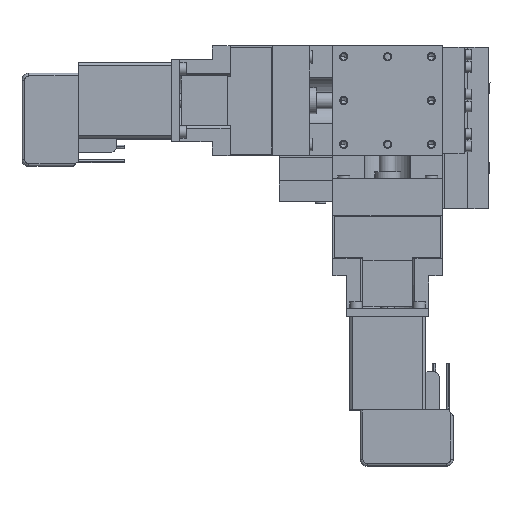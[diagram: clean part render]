
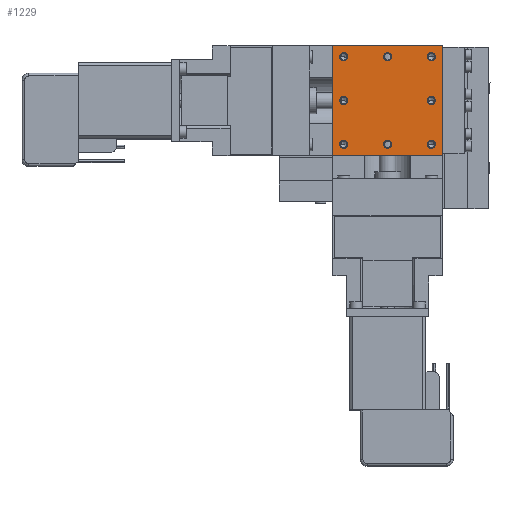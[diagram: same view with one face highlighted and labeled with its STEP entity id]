
A CAD part, top view. The second image highlights one B-rep face of the part: STEP entity #1229.
In plain terms, the highlighted planar face has unit normal (0, 0, 1).
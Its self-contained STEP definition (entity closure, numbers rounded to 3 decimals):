
#1229=ADVANCED_FACE('',(#3075,#3076,#3077,#3078,#3079,#3080,#3081,#3082,#3083),#3084,.F.);
#3075=FACE_BOUND('',#5513,.T.);
#3076=FACE_BOUND('',#5514,.T.);
#3077=FACE_BOUND('',#5515,.T.);
#3078=FACE_BOUND('',#5516,.T.);
#3079=FACE_BOUND('',#5517,.T.);
#3080=FACE_BOUND('',#5518,.T.);
#3081=FACE_BOUND('',#5519,.T.);
#3082=FACE_BOUND('',#5520,.T.);
#3083=FACE_OUTER_BOUND('',#5521,.T.);
#3084=PLANE('',#5522);
#5513=EDGE_LOOP('',(#11595,#11596));
#5514=EDGE_LOOP('',(#11597,#11598));
#5515=EDGE_LOOP('',(#11599,#11600));
#5516=EDGE_LOOP('',(#11601,#11602));
#5517=EDGE_LOOP('',(#11603,#11604));
#5518=EDGE_LOOP('',(#11605,#11606));
#5519=EDGE_LOOP('',(#11607,#11608));
#5520=EDGE_LOOP('',(#11609,#11610));
#5521=EDGE_LOOP('',(#11611,#11612,#11613,#11614));
#5522=AXIS2_PLACEMENT_3D('',#11615,#11616,#11617);
#11595=ORIENTED_EDGE('',*,*,#17413,.T.);
#11596=ORIENTED_EDGE('',*,*,#17236,.T.);
#11597=ORIENTED_EDGE('',*,*,#17414,.T.);
#11598=ORIENTED_EDGE('',*,*,#17298,.T.);
#11599=ORIENTED_EDGE('',*,*,#17415,.T.);
#11600=ORIENTED_EDGE('',*,*,#17247,.T.);
#11601=ORIENTED_EDGE('',*,*,#17349,.T.);
#11602=ORIENTED_EDGE('',*,*,#17348,.T.);
#11603=ORIENTED_EDGE('',*,*,#17416,.T.);
#11604=ORIENTED_EDGE('',*,*,#17257,.T.);
#11605=ORIENTED_EDGE('',*,*,#17411,.T.);
#11606=ORIENTED_EDGE('',*,*,#17320,.T.);
#11607=ORIENTED_EDGE('',*,*,#17370,.T.);
#11608=ORIENTED_EDGE('',*,*,#17329,.T.);
#11609=ORIENTED_EDGE('',*,*,#17417,.T.);
#11610=ORIENTED_EDGE('',*,*,#17261,.T.);
#11611=ORIENTED_EDGE('',*,*,#17386,.T.);
#11612=ORIENTED_EDGE('',*,*,#17418,.F.);
#11613=ORIENTED_EDGE('',*,*,#17419,.F.);
#11614=ORIENTED_EDGE('',*,*,#17420,.T.);
#11615=CARTESIAN_POINT('',(20.,-20.,40.));
#11616=DIRECTION('',(0.,0.,-1.0));
#11617=DIRECTION('',(1.0,0.,0.));
#17236=EDGE_CURVE('',#20998,#21002,#21004,.T.);
#17247=EDGE_CURVE('',#21021,#21023,#21025,.T.);
#17257=EDGE_CURVE('',#21039,#21043,#21045,.T.);
#17261=EDGE_CURVE('',#21047,#21051,#21053,.T.);
#17298=EDGE_CURVE('',#21116,#21120,#21122,.T.);
#17320=EDGE_CURVE('',#21153,#21155,#21157,.T.);
#17329=EDGE_CURVE('',#21167,#21169,#21171,.T.);
#17348=EDGE_CURVE('',#21202,#21204,#21206,.T.);
#17349=EDGE_CURVE('',#21204,#21202,#21207,.T.);
#17370=EDGE_CURVE('',#21169,#21167,#21240,.T.);
#17386=EDGE_CURVE('',#21268,#21266,#21269,.T.);
#17411=EDGE_CURVE('',#21155,#21153,#21310,.T.);
#17413=EDGE_CURVE('',#21002,#20998,#21312,.T.);
#17414=EDGE_CURVE('',#21120,#21116,#21313,.T.);
#17415=EDGE_CURVE('',#21023,#21021,#21314,.T.);
#17416=EDGE_CURVE('',#21043,#21039,#21315,.T.);
#17417=EDGE_CURVE('',#21051,#21047,#21316,.T.);
#17418=EDGE_CURVE('',#21317,#21266,#21318,.T.);
#17419=EDGE_CURVE('',#21319,#21317,#21320,.T.);
#17420=EDGE_CURVE('',#21319,#21268,#21321,.T.);
#20998=VERTEX_POINT('',#26967);
#21002=VERTEX_POINT('',#26972);
#21004=CIRCLE('',#26975,1.5);
#21021=VERTEX_POINT('',#26996);
#21023=VERTEX_POINT('',#26999);
#21025=CIRCLE('',#27002,1.5);
#21039=VERTEX_POINT('',#27018);
#21043=VERTEX_POINT('',#27023);
#21045=CIRCLE('',#27026,1.5);
#21047=VERTEX_POINT('',#27028);
#21051=VERTEX_POINT('',#27033);
#21053=CIRCLE('',#27036,1.5);
#21116=VERTEX_POINT('',#27117);
#21120=VERTEX_POINT('',#27122);
#21122=CIRCLE('',#27125,1.5);
#21153=VERTEX_POINT('',#27166);
#21155=VERTEX_POINT('',#27169);
#21157=CIRCLE('',#27172,1.5);
#21167=VERTEX_POINT('',#27186);
#21169=VERTEX_POINT('',#27189);
#21171=CIRCLE('',#27192,1.5);
#21202=VERTEX_POINT('',#27231);
#21204=VERTEX_POINT('',#27234);
#21206=CIRCLE('',#27237,1.5);
#21207=CIRCLE('',#27238,1.5);
#21240=CIRCLE('',#27283,1.5);
#21266=VERTEX_POINT('',#27319);
#21268=VERTEX_POINT('',#27322);
#21269=LINE('',#27323,#27324);
#21310=CIRCLE('',#27385,1.5);
#21312=CIRCLE('',#27387,1.5);
#21313=CIRCLE('',#27388,1.5);
#21314=CIRCLE('',#27389,1.5);
#21315=CIRCLE('',#27390,1.5);
#21316=CIRCLE('',#27391,1.5);
#21317=VERTEX_POINT('',#27392);
#21318=LINE('',#27393,#27394);
#21319=VERTEX_POINT('',#27395);
#21320=LINE('',#27396,#27397);
#21321=LINE('',#27398,#27399);
#26967=CARTESIAN_POINT('',(14.5,-16.,40.));
#26972=CARTESIAN_POINT('',(17.5,-16.,40.));
#26975=AXIS2_PLACEMENT_3D('',#32961,#32962,#32963);
#26996=CARTESIAN_POINT('',(14.5,16.,40.));
#26999=CARTESIAN_POINT('',(17.5,16.,40.));
#27002=AXIS2_PLACEMENT_3D('',#32982,#32983,#32984);
#27018=CARTESIAN_POINT('',(-1.5,16.,40.));
#27023=CARTESIAN_POINT('',(1.5,16.,40.));
#27026=AXIS2_PLACEMENT_3D('',#33004,#33005,#33006);
#27028=CARTESIAN_POINT('',(-17.5,16.,40.));
#27033=CARTESIAN_POINT('',(-14.5,16.,40.));
#27036=AXIS2_PLACEMENT_3D('',#33012,#33013,#33014);
#27117=CARTESIAN_POINT('',(14.5,0.,40.));
#27122=CARTESIAN_POINT('',(17.5,0.,40.));
#27125=AXIS2_PLACEMENT_3D('',#33083,#33084,#33085);
#27166=CARTESIAN_POINT('',(-17.5,-16.,40.));
#27169=CARTESIAN_POINT('',(-14.5,-16.,40.));
#27172=AXIS2_PLACEMENT_3D('',#33125,#33126,#33127);
#27186=CARTESIAN_POINT('',(-17.5,0.,40.));
#27189=CARTESIAN_POINT('',(-14.5,0.,40.));
#27192=AXIS2_PLACEMENT_3D('',#33140,#33141,#33142);
#27231=CARTESIAN_POINT('',(-1.5,-16.,40.));
#27234=CARTESIAN_POINT('',(1.5,-16.,40.));
#27237=AXIS2_PLACEMENT_3D('',#33177,#33178,#33179);
#27238=AXIS2_PLACEMENT_3D('',#33180,#33181,#33182);
#27283=AXIS2_PLACEMENT_3D('',#33219,#33220,#33221);
#27319=CARTESIAN_POINT('',(-20.,20.,40.));
#27322=CARTESIAN_POINT('',(20.,20.,40.));
#27323=CARTESIAN_POINT('',(20.,20.,40.));
#27324=VECTOR('',#33245,1000.0);
#27385=AXIS2_PLACEMENT_3D('',#33278,#33279,#33280);
#27387=AXIS2_PLACEMENT_3D('',#33284,#33285,#33286);
#27388=AXIS2_PLACEMENT_3D('',#33287,#33288,#33289);
#27389=AXIS2_PLACEMENT_3D('',#33290,#33291,#33292);
#27390=AXIS2_PLACEMENT_3D('',#33293,#33294,#33295);
#27391=AXIS2_PLACEMENT_3D('',#33296,#33297,#33298);
#27392=CARTESIAN_POINT('',(-20.,-20.,40.));
#27393=CARTESIAN_POINT('',(-20.,-20.,40.));
#27394=VECTOR('',#33299,1000.0);
#27395=CARTESIAN_POINT('',(20.,-20.,40.));
#27396=CARTESIAN_POINT('',(20.,-20.,40.));
#27397=VECTOR('',#33300,1000.0);
#27398=CARTESIAN_POINT('',(20.,-20.,40.));
#27399=VECTOR('',#33301,1000.0);
#32961=CARTESIAN_POINT('',(16.,-16.,40.));
#32962=DIRECTION('',(0.,0.,-1.0));
#32963=DIRECTION('',(1.0,0.,0.));
#32982=CARTESIAN_POINT('',(16.,16.,40.));
#32983=DIRECTION('',(0.,0.,-1.0));
#32984=DIRECTION('',(1.0,0.,0.));
#33004=CARTESIAN_POINT('',(0.,16.,40.));
#33005=DIRECTION('',(0.,0.,-1.0));
#33006=DIRECTION('',(1.0,0.,0.));
#33012=CARTESIAN_POINT('',(-16.,16.,40.));
#33013=DIRECTION('',(0.,0.,-1.0));
#33014=DIRECTION('',(1.0,0.,0.));
#33083=CARTESIAN_POINT('',(16.,0.,40.));
#33084=DIRECTION('',(0.,0.,-1.0));
#33085=DIRECTION('',(1.0,0.,0.));
#33125=CARTESIAN_POINT('',(-16.,-16.,40.));
#33126=DIRECTION('',(0.,0.,-1.0));
#33127=DIRECTION('',(1.0,0.,0.));
#33140=CARTESIAN_POINT('',(-16.,0.,40.));
#33141=DIRECTION('',(0.,0.,-1.0));
#33142=DIRECTION('',(1.0,0.,0.));
#33177=CARTESIAN_POINT('',(0.,-16.,40.));
#33178=DIRECTION('',(0.,0.,-1.0));
#33179=DIRECTION('',(1.0,0.,0.));
#33180=CARTESIAN_POINT('',(0.,-16.,40.));
#33181=DIRECTION('',(0.,0.,-1.0));
#33182=DIRECTION('',(1.0,0.,0.));
#33219=CARTESIAN_POINT('',(-16.,0.,40.));
#33220=DIRECTION('',(0.,0.,-1.0));
#33221=DIRECTION('',(1.0,0.,0.));
#33245=DIRECTION('',(-1.0,0.,0.));
#33278=CARTESIAN_POINT('',(-16.,-16.,40.));
#33279=DIRECTION('',(0.,0.,-1.0));
#33280=DIRECTION('',(1.0,0.,0.));
#33284=CARTESIAN_POINT('',(16.,-16.,40.));
#33285=DIRECTION('',(0.,0.,-1.0));
#33286=DIRECTION('',(1.0,0.,0.));
#33287=CARTESIAN_POINT('',(16.,0.,40.));
#33288=DIRECTION('',(0.,0.,-1.0));
#33289=DIRECTION('',(1.0,0.,0.));
#33290=CARTESIAN_POINT('',(16.,16.,40.));
#33291=DIRECTION('',(0.,0.,-1.0));
#33292=DIRECTION('',(1.0,0.,0.));
#33293=CARTESIAN_POINT('',(0.,16.,40.));
#33294=DIRECTION('',(0.,0.,-1.0));
#33295=DIRECTION('',(1.0,0.,0.));
#33296=CARTESIAN_POINT('',(-16.,16.,40.));
#33297=DIRECTION('',(0.,0.,-1.0));
#33298=DIRECTION('',(1.0,0.,0.));
#33299=DIRECTION('',(0.,1.0,0.0));
#33300=DIRECTION('',(-1.0,0.,0.));
#33301=DIRECTION('',(0.,1.0,0.0));
